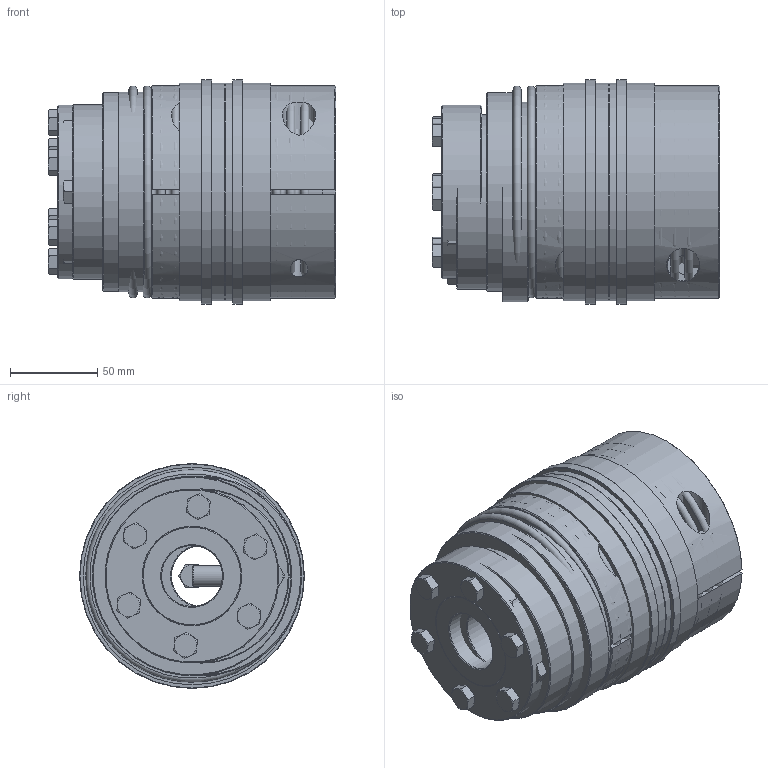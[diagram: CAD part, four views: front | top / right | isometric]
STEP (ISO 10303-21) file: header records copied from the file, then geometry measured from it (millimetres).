
FILE_DESCRIPTION( ( 'Unknown' ), '1' );
FILE_NAME( 'C:/Dokumente und Einstellungen/SKarpstein/Desktop/Korrigierte 3D Modelle/KBK-B-AK/KBK-BAK-500-163.stp', 'Unknown', ( 'Unknown' ), ( 'Unknown' ), 'XStep 1.0', 'Unknown', ' ' );
FILE_SCHEMA( ( 'automotive_design' ) );
Length unit declared in the file: millimetre
Products named in the file (13): Assem1; Assem2; Assem3; Zylinderschraube DIN 912_3_0_0; DR500_Standard_0; Hex Screw GradeC_DIN_ISO 4018 - M8 x 40-NN_0; BA500_Standard_0; Stellring 500_0; Druckring 500_0; KBK L-K-500 Grundkörper_0; Klemmnabe 500_0; Flansch BK500; BK500_Standard_0
Bounding box: 164.95 x 129 x 129 mm (x, y, z)
Volume: 2745167.1 mm3; surface area: 692158 mm2
Topology: 34 solids, 34 shells, 586 faces, 1227 edges, 787 vertices
Faces by surface type: plane 252, cone 165, cylinder 137, torus 32
Full cylindrical faces by diameter (mm): 3.242 x6, 5.1 x6, 5.2 x6, 6.8 x18, 8 x13, 9 x18, 10.106 x2, 12 x3, 12.5 x2, 18 x3, 19 x2, 35 x5, 62 x2, 65 x4, 65.111 x3, 70 x2, 80 x2, 86 x4, 90 x2, 100 x3, 104.5 x2, 107.7 x4, 108.9 x4, 113 x2, 114 x2, 114.5 x3, 125 x4, 129 x2
Entity records: 5208 total; most frequent: CARTESIAN_POINT 1242, DIRECTION 776, ORIENTED_EDGE 494, AXIS2_PLACEMENT_3D 365, EDGE_LOOP 352, EDGE_CURVE 247, FACE_OUTER_BOUND 244, VERTEX_POINT 215
